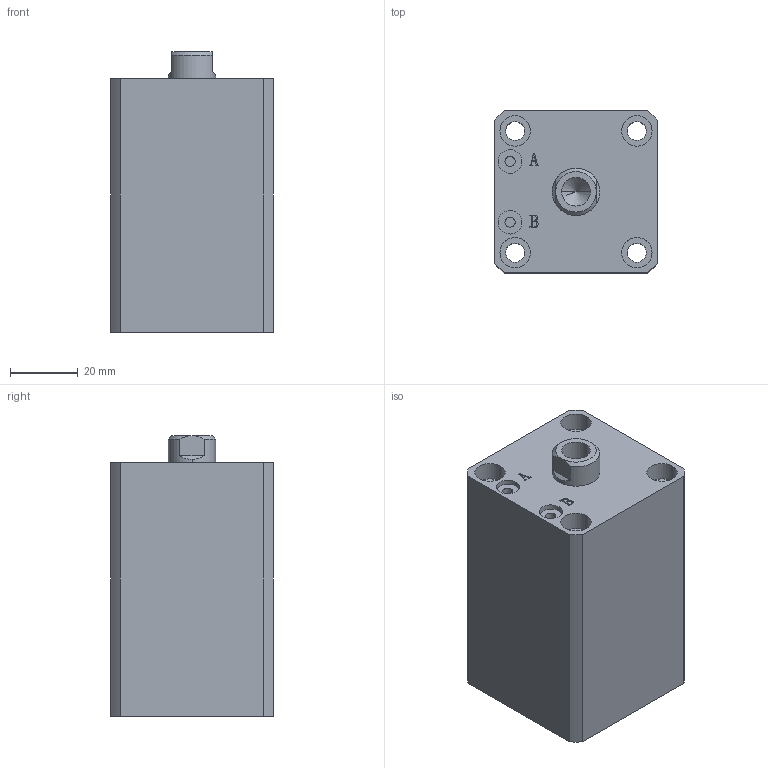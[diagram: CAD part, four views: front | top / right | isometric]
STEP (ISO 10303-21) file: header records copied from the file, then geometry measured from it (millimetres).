
FILE_DESCRIPTION (( 'STEP AP203' ), '1' );
FILE_NAME ('HTB-SDMA25-30N.STEP', '2019-10-07T10:52:23', ( '微软用户' ), ( '微软中国' ), 'SwSTEP 2.0', 'SolidWorks 2012', '' );
FILE_SCHEMA (( 'CONFIG_CONTROL_DESIGN' ));
Length unit declared in the file: millimetre
Products named in the file (3): HTB-SDMA25-30N; HTB-SDMA25-30N活塞杆; HTB-SDMA25-30掛极
Assembly tree (2 placements, depth 2):
  HTB-SDMA25-30N
    HTB-SDMA25-30掛极
    HTB-SDMA25-30N活塞杆
Bounding box: 48 x 48 x 83 mm (x, y, z)
Volume: 152252.8 mm3; surface area: 34742.6 mm2
Topology: 2 solids, 2 shells, 137 faces, 329 edges, 215 vertices
Faces by surface type: plane 65, cylinder 46, bspline 16, torus 6, cone 4
Entity records: 5072 total; most frequent: CARTESIAN_POINT 1592, ORIENTED_EDGE 654, DIRECTION 645, EDGE_CURVE 327, AXIS2_PLACEMENT_3D 232, VERTEX_POINT 215, VECTOR 181, LINE 181
